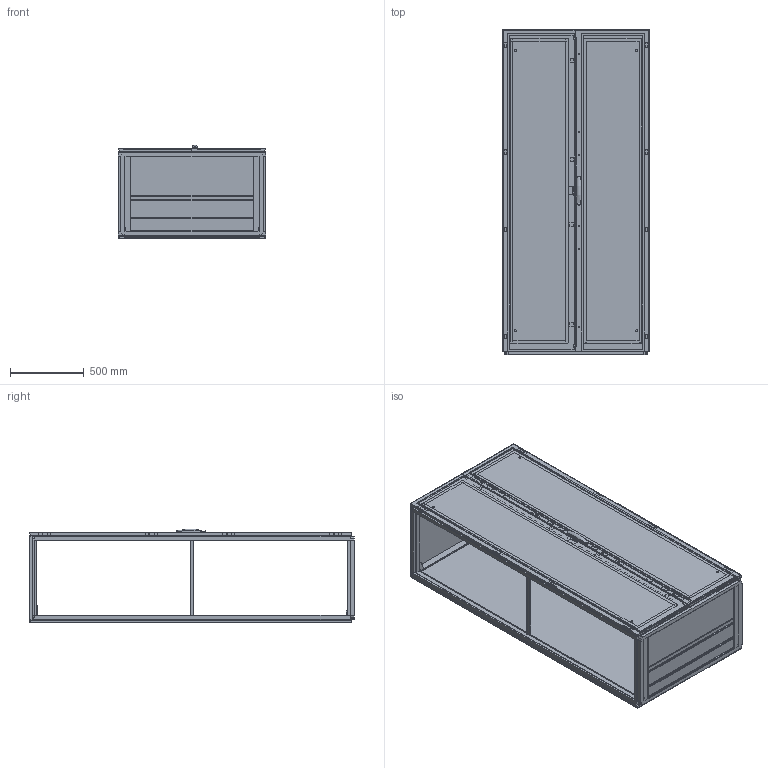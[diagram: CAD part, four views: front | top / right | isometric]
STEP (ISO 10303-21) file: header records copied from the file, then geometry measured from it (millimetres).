
FILE_DESCRIPTION(/* description */ ('STEP AP203'),/* implementation_level */ '2;1');
FILE_NAME(/* name */ 'MCD22106R5(0)',/* time_stamp */ '2024-02-27T15:18:31+01:00',/* author */ ('License CC BY-ND 4.0'),/* organization */ ('CADENAS'),/* preprocessor_version */ 'ST-DEVELOPER v19.3',/* originating_system */ 'PARTsolutions',/* authorisation */ ' ');
FILE_SCHEMA (('CONFIG_CONTROL_DESIGN'));
Length unit declared in the file: millimetre
Products named in the file (26): MCD22106R5(0); MCD22106R5_Frame; CRPK10(0)_Rear Panel Mounting Kit; CRP2210R5(0)_Rear Panel; CMB 600(0)_Middle Profile; CRPK10(0)_Rear Panel Bracket; DNMK02(0)_Hinge Right; DN2205RR5(0)_Right door; LSSDXXXX(0)_Lock; LSSD2200(0)_Espagnolette Top; LSSD2200(0)_Espagnolette Bottom; DNMK02(0)_Hinge Left; DN2205LR5(0)_Left door; LSEL2200(0)_Left Door Espagnolette; DNMK01(0)_Rod catches; CCR106R5(0)_Roof plate; LSSD2200(0)_Lock Catch; LSELXX10X(0)_Left Door Espagnolette; MPA06(0)_Mounting Plate Brackets 1; MP2210(0)_P1; MPA06(0)_Mounting Plate Brackets 2; MPA06(0)_Mounting Plate Brackets 3; MPA06(0)_Mounting Plate Brackets 4; CBPW1000D300(0)_Bottom Plate 3; CBP100(0)_Bottom Plate 1; CBP100(0)_Bottom Plate 2
Assembly tree (45 placements, depth 2):
  MCD22106R5(0)
    MCD22106R5_Frame
    CRPK10(0)_Rear Panel Mounting Kit  x8
    CRP2210R5(0)_Rear Panel
    CMB 600(0)_Middle Profile  x2
    CRPK10(0)_Rear Panel Bracket  x2
    DNMK02(0)_Hinge Right  x4
    DN2205RR5(0)_Right door
    LSSDXXXX(0)_Lock
    LSSD2200(0)_Espagnolette Top
    LSSD2200(0)_Espagnolette Bottom
    DNMK02(0)_Hinge Left  x4
    DN2205LR5(0)_Left door
    LSEL2200(0)_Left Door Espagnolette
    DNMK01(0)_Rod catches  x4
    CCR106R5(0)_Roof plate
    LSSD2200(0)_Lock Catch  x2
    LSELXX10X(0)_Left Door Espagnolette  x2
    MPA06(0)_Mounting Plate Brackets 1
    MP2210(0)_P1
    MPA06(0)_Mounting Plate Brackets 2
    MPA06(0)_Mounting Plate Brackets 3
    MPA06(0)_Mounting Plate Brackets 4
    CBPW1000D300(0)_Bottom Plate 3
    CBP100(0)_Bottom Plate 1
    CBP100(0)_Bottom Plate 2
Bounding box: 999 x 2203.5 x 634.91 mm (x, y, z)
Volume: 40201756.5 mm3; surface area: 19959985.5 mm2
Topology: 45 solids, 45 shells, 2172 faces, 5863 edges, 3867 vertices
Faces by surface type: plane 1900, cylinder 195, cone 74, sphere 2, torus 1
Full cylindrical faces by diameter (mm): 2.55 x2, 5 x26, 5.2 x2, 5.8 x2, 6 x6, 6.5 x2, 7 x6, 7.4 x4, 8 x22, 9 x2, 10 x12, 12.5 x1, 13 x3, 14 x6, 14.12 x1, 15 x4
Entity records: 52113 total; most frequent: CARTESIAN_POINT 8921, ORIENTED_EDGE 8496, DIRECTION 7987, EDGE_CURVE 4248, LINE 3815, VECTOR 3815, VERTEX_POINT 2870, AXIS2_PLACEMENT_3D 2086
